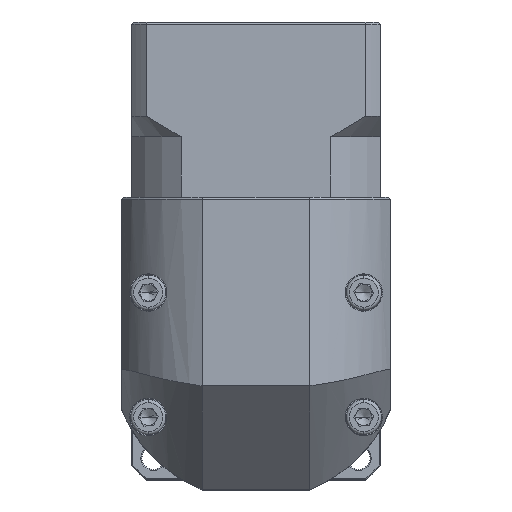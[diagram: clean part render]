
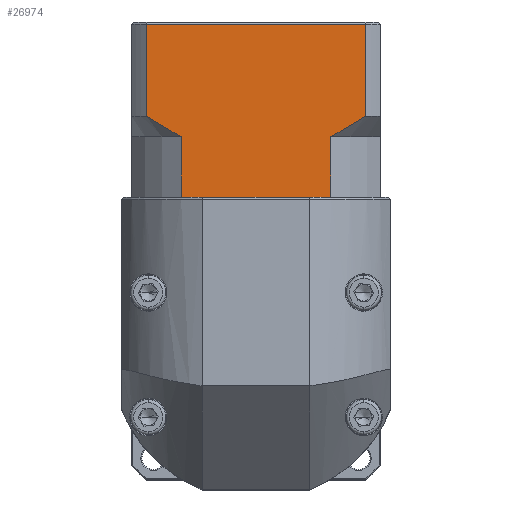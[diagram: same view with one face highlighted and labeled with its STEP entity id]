
A CAD part, top view. The second image highlights one B-rep face of the part: STEP entity #26974.
In plain terms, the highlighted planar face has unit normal (0, 0, 1).
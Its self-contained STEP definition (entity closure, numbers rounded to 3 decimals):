
#1621 = VECTOR ( 'NONE', #107421, 1000. ) ;
#2431 = LINE ( 'NONE', #8937, #96717 ) ;
#2717 = LINE ( 'NONE', #39211, #80343 ) ;
#3030 = CARTESIAN_POINT ( 'NONE',  ( -26.043, 57.095, 46.008 ) ) ;
#4621 = FACE_OUTER_BOUND ( 'NONE', #57502, .T. ) ;
#8623 = LINE ( 'NONE', #71742, #1621 ) ;
#8937 = CARTESIAN_POINT ( 'NONE',  ( -28.924, 55.544, 46.008 ) ) ;
#12276 = CARTESIAN_POINT ( 'NONE',  ( -21.857, 59.643, 46.008 ) ) ;
#13750 = EDGE_CURVE ( 'NONE', #19361, #102483, #2717, .T. ) ;
#14284 = CARTESIAN_POINT ( 'NONE',  ( -76.952, 41.044, 46.008 ) ) ;
#14882 = EDGE_CURVE ( 'NONE', #39466, #96785, #33022, .T. ) ;
#15972 = CARTESIAN_POINT ( 'NONE',  ( -70.671, 58.771, 46.008 ) ) ;
#16328 = CARTESIAN_POINT ( 'NONE',  ( -72.05, 59.645, 46.008 ) ) ;
#19361 = VERTEX_POINT ( 'NONE', #30120 ) ;
#24850 = CARTESIAN_POINT ( 'NONE',  ( -67.863, 57.096, 46.008 ) ) ;
#25232 = CARTESIAN_POINT ( 'NONE',  ( -66.432, 56.292, 46.008 ) ) ;
#25580 = AXIS2_PLACEMENT_3D ( 'NONE', #49058, #84570, #40509 ) ;
#26974 = ADVANCED_FACE ( 'NONE', ( #4621 ), #93100, .F. ) ;
#28791 = LINE ( 'NONE', #113601, #84280 ) ;
#29063 = LINE ( 'NONE', #49200, #97031 ) ;
#30120 = CARTESIAN_POINT ( 'NONE',  ( -29.915, 41.044, 46.008 ) ) ;
#31545 = ORIENTED_EDGE ( 'NONE', *, *, #76610, .F. ) ;
#33022 = B_SPLINE_CURVE_WITH_KNOTS ( 'NONE', 3,
 ( #101068, #65489, #3030, #47295, #12276, #109257 ),
 .UNSPECIFIED., .F., .F.,
 ( 4, 2, 4 ),
 ( 0.1, 0.104, 0.109 ),
 .UNSPECIFIED. ) ;
#34991 = LINE ( 'NONE', #14284, #108606 ) ;
#36320 = VERTEX_POINT ( 'NONE', #46088 ) ;
#37247 = CARTESIAN_POINT ( 'NONE',  ( -73.41, 55.544, 46.008 ) ) ;
#39211 = CARTESIAN_POINT ( 'NONE',  ( -76.952, 41.044, 46.008 ) ) ;
#39466 = VERTEX_POINT ( 'NONE', #65420 ) ;
#40509 = DIRECTION ( 'NONE',  ( 0., 1., 0. ) ) ;
#40903 = ORIENTED_EDGE ( 'NONE', *, *, #13750, .T. ) ;
#41292 = CARTESIAN_POINT ( 'NONE',  ( -64.98, 55.544, 46.008 ) ) ;
#42055 = CARTESIAN_POINT ( 'NONE',  ( -73.41, 60.544, 46.008 ) ) ;
#42665 = ORIENTED_EDGE ( 'NONE', *, *, #115110, .T. ) ;
#45898 = ORIENTED_EDGE ( 'NONE', *, *, #114569, .T. ) ;
#46088 = CARTESIAN_POINT ( 'NONE',  ( -63.989, 41.044, 46.008 ) ) ;
#47295 = CARTESIAN_POINT ( 'NONE',  ( -23.237, 58.769, 46.008 ) ) ;
#48037 = VECTOR ( 'NONE', #53908, 1000. ) ;
#48680 = CARTESIAN_POINT ( 'NONE',  ( -73.41, 60.544, 46.008 ) ) ;
#49058 = CARTESIAN_POINT ( 'NONE',  ( -76.952, 83.244, 46.008 ) ) ;
#49200 = CARTESIAN_POINT ( 'NONE',  ( -64.98, 55.544, 46.008 ) ) ;
#53143 = VERTEX_POINT ( 'NONE', #60385 ) ;
#53908 = DIRECTION ( 'NONE',  ( 0., 1., 0. ) ) ;
#54889 = CARTESIAN_POINT ( 'NONE',  ( -64.98, 55.544, 46.008 ) ) ;
#57502 = EDGE_LOOP ( 'NONE', ( #31545, #80653, #94143, #45898, #79262, #42665, #77662, #40903, #89795, #62985 ) ) ;
#58769 = CARTESIAN_POINT ( 'NONE',  ( -20.495, 55.544, 46.008 ) ) ;
#60385 = CARTESIAN_POINT ( 'NONE',  ( -64.98, 41.044, 46.008 ) ) ;
#60474 = VERTEX_POINT ( 'NONE', #54889 ) ;
#61286 = DIRECTION ( 'NONE',  ( 1., 0., 0. ) ) ;
#61902 = CARTESIAN_POINT ( 'NONE',  ( -20.495, 60.544, 46.008 ) ) ;
#62418 = LINE ( 'NONE', #58769, #90019 ) ;
#62985 = ORIENTED_EDGE ( 'NONE', *, *, #14882, .T. ) ;
#65420 = CARTESIAN_POINT ( 'NONE',  ( -28.924, 55.544, 46.008 ) ) ;
#65489 = CARTESIAN_POINT ( 'NONE',  ( -27.468, 56.294, 46.008 ) ) ;
#68788 = VERTEX_POINT ( 'NONE', #82928 ) ;
#70643 = B_SPLINE_CURVE_WITH_KNOTS ( 'NONE', 3,
 ( #42055, #16328, #15972, #24850, #25232, #41292 ),
 .UNSPECIFIED., .F., .F.,
 ( 4, 2, 4 ),
 ( 0.052, 0.057, 0.062 ),
 .UNSPECIFIED. ) ;
#71742 = CARTESIAN_POINT ( 'NONE',  ( -76.952, 82.744, 46.008 ) ) ;
#73934 = DIRECTION ( 'NONE',  ( 0., 1., 0. ) ) ;
#75850 = EDGE_CURVE ( 'NONE', #104999, #68788, #8623, .T. ) ;
#76360 = DIRECTION ( 'NONE',  ( 1., 0., 0. ) ) ;
#76610 = EDGE_CURVE ( 'NONE', #104999, #96785, #62418, .T. ) ;
#77459 = EDGE_CURVE ( 'NONE', #39466, #102483, #2431, .T. ) ;
#77662 = ORIENTED_EDGE ( 'NONE', *, *, #92312, .T. ) ;
#79262 = ORIENTED_EDGE ( 'NONE', *, *, #107890, .F. ) ;
#80343 = VECTOR ( 'NONE', #108952, 1000. ) ;
#80653 = ORIENTED_EDGE ( 'NONE', *, *, #75850, .T. ) ;
#82928 = CARTESIAN_POINT ( 'NONE',  ( -73.41, 82.744, 46.008 ) ) ;
#84280 = VECTOR ( 'NONE', #61286, 1000. ) ;
#84570 = DIRECTION ( 'NONE',  ( 0., 0., -1. ) ) ;
#84667 = DIRECTION ( 'NONE',  ( 0., -1., 0. ) ) ;
#89795 = ORIENTED_EDGE ( 'NONE', *, *, #77459, .F. ) ;
#90019 = VECTOR ( 'NONE', #84667, 1000. ) ;
#90183 = CARTESIAN_POINT ( 'NONE',  ( -28.924, 41.044, 46.008 ) ) ;
#92312 = EDGE_CURVE ( 'NONE', #36320, #19361, #28791, .T. ) ;
#93100 = PLANE ( 'NONE',  #25580 ) ;
#94143 = ORIENTED_EDGE ( 'NONE', *, *, #113585, .F. ) ;
#96717 = VECTOR ( 'NONE', #107807, 1000. ) ;
#96785 = VERTEX_POINT ( 'NONE', #61902 ) ;
#97031 = VECTOR ( 'NONE', #73934, 1000. ) ;
#101068 = CARTESIAN_POINT ( 'NONE',  ( -28.924, 55.544, 46.008 ) ) ;
#102483 = VERTEX_POINT ( 'NONE', #90183 ) ;
#104999 = VERTEX_POINT ( 'NONE', #112234 ) ;
#107409 = VERTEX_POINT ( 'NONE', #48680 ) ;
#107421 = DIRECTION ( 'NONE',  ( -1., 0., 0. ) ) ;
#107807 = DIRECTION ( 'NONE',  ( 0., -1., 0. ) ) ;
#107890 = EDGE_CURVE ( 'NONE', #53143, #60474, #29063, .T. ) ;
#108606 = VECTOR ( 'NONE', #76360, 1000. ) ;
#108952 = DIRECTION ( 'NONE',  ( 1., 0., 0. ) ) ;
#109036 = LINE ( 'NONE', #37247, #48037 ) ;
#109257 = CARTESIAN_POINT ( 'NONE',  ( -20.495, 60.544, 46.008 ) ) ;
#112234 = CARTESIAN_POINT ( 'NONE',  ( -20.495, 82.744, 46.008 ) ) ;
#113585 = EDGE_CURVE ( 'NONE', #107409, #68788, #109036, .T. ) ;
#113601 = CARTESIAN_POINT ( 'NONE',  ( -76.952, 41.044, 46.008 ) ) ;
#114569 = EDGE_CURVE ( 'NONE', #107409, #60474, #70643, .T. ) ;
#115110 = EDGE_CURVE ( 'NONE', #53143, #36320, #34991, .T. ) ;
